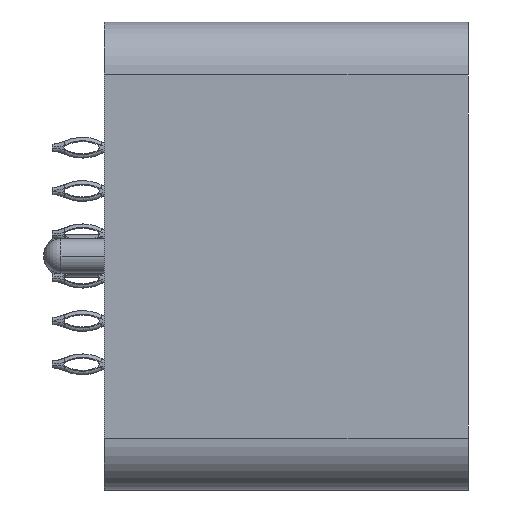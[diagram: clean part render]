
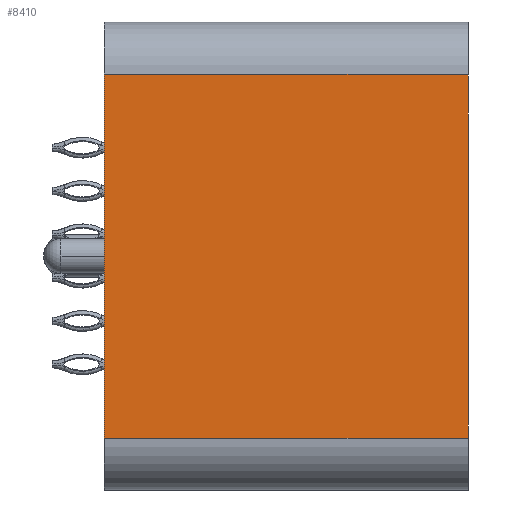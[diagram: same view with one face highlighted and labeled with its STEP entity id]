
A CAD part, left-side view. The second image highlights one B-rep face of the part: STEP entity #8410.
In plain terms, the highlighted planar face has unit normal (-1, 0, 0).
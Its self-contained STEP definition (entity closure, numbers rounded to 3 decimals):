
#8410=ADVANCED_FACE('',(#14368),#12427,.T.);
#12427=PLANE('',#76752);
#14368=FACE_OUTER_BOUND('',#18508,.T.);
#18508=EDGE_LOOP('',(#24820,#24821,#24822,#24823));
#24820=ORIENTED_EDGE('',*,*,#53375,.F.);
#24821=ORIENTED_EDGE('',*,*,#53376,.T.);
#24822=ORIENTED_EDGE('',*,*,#53377,.F.);
#24823=ORIENTED_EDGE('',*,*,#53378,.F.);
#45799=VERTEX_POINT('',#107007);
#45801=VERTEX_POINT('',#107011);
#45802=VERTEX_POINT('',#107015);
#45803=VERTEX_POINT('',#107017);
#53375=EDGE_CURVE('',#45801,#45799,#64203,.T.);
#53376=EDGE_CURVE('',#45801,#45802,#64204,.T.);
#53377=EDGE_CURVE('',#45803,#45802,#64205,.T.);
#53378=EDGE_CURVE('',#45799,#45803,#64206,.T.);
#64203=LINE('',#107012,#70559);
#64204=LINE('',#107014,#70560);
#64205=LINE('',#107016,#70561);
#64206=LINE('',#107018,#70562);
#70559=VECTOR('',#85475,1.);
#70560=VECTOR('',#85478,1.);
#70561=VECTOR('',#85479,1.);
#70562=VECTOR('',#85480,1.);
#76752=AXIS2_PLACEMENT_3D('',#107019,#85481,#85482);
#85475=DIRECTION('',(0.,-1.,0.));
#85478=DIRECTION('',(0.,0.,-1.));
#85479=DIRECTION('',(0.,1.,0.));
#85480=DIRECTION('',(0.,0.,-1.));
#85481=DIRECTION('',(-1.,0.,0.));
#85482=DIRECTION('',(0.,0.,1.));
#107007=CARTESIAN_POINT('',(-38.45,-21.,10.5));
#107011=CARTESIAN_POINT('',(-38.45,0.,10.5));
#107012=CARTESIAN_POINT('',(-38.45,0.,10.5));
#107014=CARTESIAN_POINT('',(-38.45,0.,10.5));
#107015=CARTESIAN_POINT('',(-38.45,0.,-10.5));
#107016=CARTESIAN_POINT('',(-38.45,-21.,-10.5));
#107017=CARTESIAN_POINT('',(-38.45,-21.,-10.5));
#107018=CARTESIAN_POINT('',(-38.45,-21.,10.5));
#107019=CARTESIAN_POINT('',(-38.45,-9.,-13.5));
